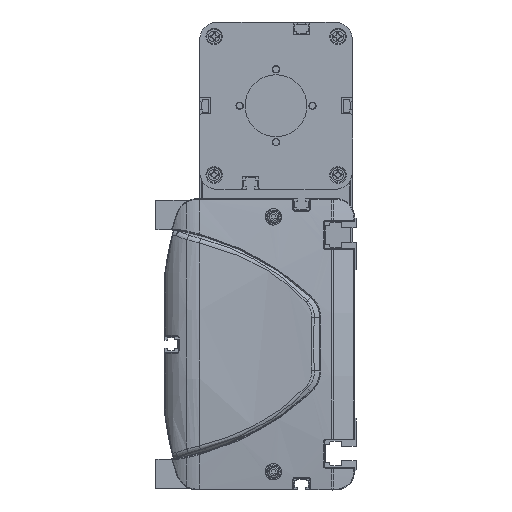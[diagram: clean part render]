
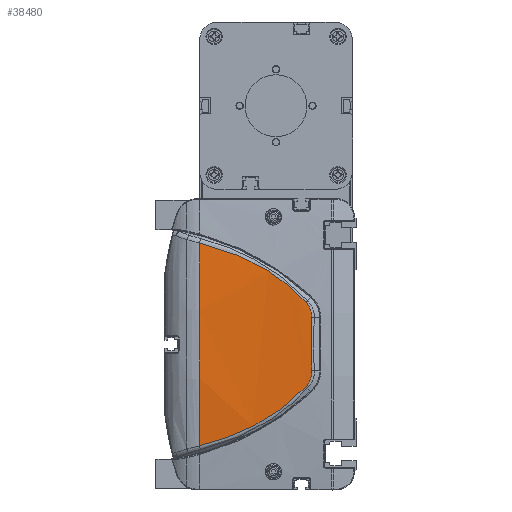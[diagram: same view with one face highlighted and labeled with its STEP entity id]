
A CAD part, left-side view. The second image highlights one B-rep face of the part: STEP entity #38480.
In plain terms, the highlighted cylindrical face has radius 600 mm (diameter 1200 mm), a partial arc.
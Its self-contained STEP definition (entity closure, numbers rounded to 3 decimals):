
#11435=CARTESIAN_POINT('',(-12.406,86.,
55.736));
#11436=CARTESIAN_POINT('',(-12.529,80.495,
54.41));
#11437=CARTESIAN_POINT('',(-12.828,69.636,
51.114));
#11438=CARTESIAN_POINT('',(-13.389,54.079,
44.179));
#11439=CARTESIAN_POINT('',(-14.01,39.709,
34.979));
#11440=CARTESIAN_POINT('',(-14.395,31.353,
27.243));
#11441=CARTESIAN_POINT('',(-14.555,27.451,
23.113));
#11443=CARTESIAN_POINT('',(-14.555,27.451,
23.113));
#11444=CARTESIAN_POINT('',(-14.598,26.394,
21.994));
#11445=CARTESIAN_POINT('',(-14.695,24.746,
19.315));
#11446=CARTESIAN_POINT('',(-14.783,24.276,
16.208));
#11447=CARTESIAN_POINT('',(-14.821,24.351,
14.67));
#11449=CARTESIAN_POINT('',(-14.821,24.351,
14.67));
#11450=CARTESIAN_POINT('',(-14.9,24.51,
11.413));
#11451=CARTESIAN_POINT('',(-15.007,24.721,
4.895));
#11452=CARTESIAN_POINT('',(-15.007,24.721,
-4.895));
#11453=CARTESIAN_POINT('',(-14.9,24.51,
-11.413));
#11454=CARTESIAN_POINT('',(-14.821,24.351,
-14.67));
#11456=CARTESIAN_POINT('',(-14.821,24.351,
-14.67));
#11457=CARTESIAN_POINT('',(-14.783,24.276,
-16.208));
#11458=CARTESIAN_POINT('',(-14.695,24.746,
-19.315));
#11459=CARTESIAN_POINT('',(-14.598,26.394,
-21.995));
#11460=CARTESIAN_POINT('',(-14.555,27.451,
-23.113));
#11462=CARTESIAN_POINT('',(-14.555,27.451,
-23.113));
#11463=CARTESIAN_POINT('',(-14.395,31.353,
-27.243));
#11464=CARTESIAN_POINT('',(-14.01,39.709,
-34.979));
#11465=CARTESIAN_POINT('',(-13.389,54.079,
-44.179));
#11466=CARTESIAN_POINT('',(-12.828,69.636,
-51.114));
#11467=CARTESIAN_POINT('',(-12.529,80.495,
-54.41));
#11468=CARTESIAN_POINT('',(-12.406,86.,
-55.736));
#11470=CARTESIAN_POINT('',(585.,86.,0.));
#11471=DIRECTION('',(0.,1.,0.));
#11472=DIRECTION('',(-0.996,0.,-0.093));
#11473=AXIS2_PLACEMENT_3D('',#11470,#11471,#11472);
#11486=CARTESIAN_POINT('',(-12.406,86.,
55.736));
#20037=VERTEX_POINT('',#11486);
#20038=CARTESIAN_POINT('',(-12.406,86.,
-55.736));
#20039=VERTEX_POINT('',#20038);
#20089=VERTEX_POINT('',#11441);
#20090=VERTEX_POINT('',#11447);
#20091=VERTEX_POINT('',#11454);
#20092=VERTEX_POINT('',#11460);
#38462=CARTESIAN_POINT('',(585.,87.45,0.));
#38463=DIRECTION('',(0.,-1.,0.));
#38464=DIRECTION('',(0.,0.,-1.));
#38465=AXIS2_PLACEMENT_3D('',#38462,#38463,#38464);
#38466=CYLINDRICAL_SURFACE('',#38465,600.);
#38468=ORIENTED_EDGE('',*,*,#38467,.T.);
#38470=ORIENTED_EDGE('',*,*,#38469,.T.);
#38471=ORIENTED_EDGE('',*,*,#38452,.T.);
#38473=ORIENTED_EDGE('',*,*,#38472,.T.);
#38475=ORIENTED_EDGE('',*,*,#38474,.T.);
#38477=ORIENTED_EDGE('',*,*,#38476,.T.);
#38478=EDGE_LOOP('',(#38468,#38470,#38471,#38473,#38475,#38477));
#38479=FACE_OUTER_BOUND('',#38478,.F.);
#38480=ADVANCED_FACE('',(#38479),#38466,.T.);
#11442=B_SPLINE_CURVE_WITH_KNOTS('',3,(#11435,#11436,#11437,#11438,#11439,
#11440,#11441),.UNSPECIFIED.,.F.,.F.,(4,1,1,1,4),(0.,0.25,0.5,0.75,
1.),.UNSPECIFIED.);
#11448=B_SPLINE_CURVE_WITH_KNOTS('',3,(#11443,#11444,#11445,#11446,#11447),
.UNSPECIFIED.,.F.,.F.,(4,1,4),(0.,0.5,1.),.UNSPECIFIED.);
#11455=B_SPLINE_CURVE_WITH_KNOTS('',3,(#11449,#11450,#11451,#11452,#11453,
#11454),.UNSPECIFIED.,.F.,.F.,(4,1,1,4),(0.,0.333,
0.667,1.),.UNSPECIFIED.);
#11461=B_SPLINE_CURVE_WITH_KNOTS('',3,(#11456,#11457,#11458,#11459,#11460),
.UNSPECIFIED.,.F.,.F.,(4,1,4),(0.,0.5,1.),.UNSPECIFIED.);
#11469=B_SPLINE_CURVE_WITH_KNOTS('',3,(#11462,#11463,#11464,#11465,#11466,
#11467,#11468),.UNSPECIFIED.,.F.,.F.,(4,1,1,1,4),(0.,0.25,0.5,0.75,
1.),.UNSPECIFIED.);
#11474=CIRCLE('',#11473,600.);
#38452=EDGE_CURVE('',#20090,#20091,#11455,.T.);
#38467=EDGE_CURVE('',#20037,#20089,#11442,.T.);
#38469=EDGE_CURVE('',#20089,#20090,#11448,.T.);
#38472=EDGE_CURVE('',#20091,#20092,#11461,.T.);
#38474=EDGE_CURVE('',#20092,#20039,#11469,.T.);
#38476=EDGE_CURVE('',#20039,#20037,#11474,.T.);
